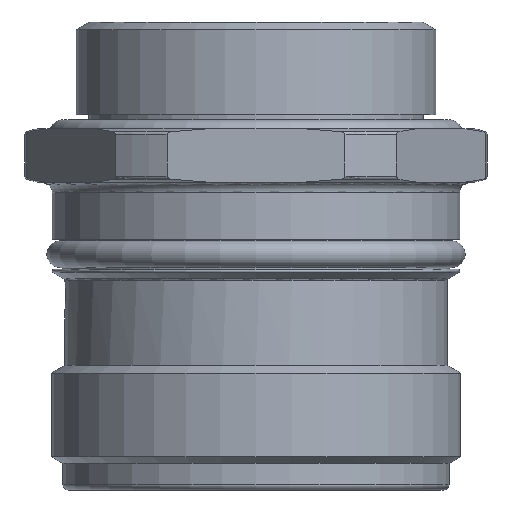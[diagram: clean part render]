
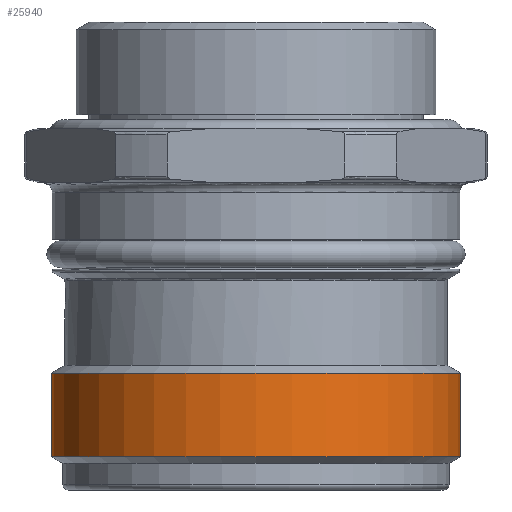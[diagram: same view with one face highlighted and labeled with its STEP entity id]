
A CAD part, left-side view. The second image highlights one B-rep face of the part: STEP entity #25940.
In plain terms, the highlighted cylindrical face has radius 11.5 mm (diameter 23 mm), a partial arc.
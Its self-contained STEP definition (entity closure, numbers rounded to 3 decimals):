
#1104=DIRECTION('',(0.,0.,-1.));
#1105=VECTOR('',#1104,4.692);
#1106=CARTESIAN_POINT('',(0.,-11.5,-19.733));
#1107=LINE('',#1106,#1105);
#1108=DIRECTION('',(0.,0.,-1.));
#1109=VECTOR('',#1108,4.692);
#1110=CARTESIAN_POINT('',(0.,11.5,-19.733));
#1111=LINE('',#1110,#1109);
#1112=CARTESIAN_POINT('',(0.,0.,-19.733));
#1113=DIRECTION('',(0.,0.,-1.));
#1114=DIRECTION('',(0.,-1.,0.));
#1115=AXIS2_PLACEMENT_3D('',#1112,#1113,#1114);
#1135=CARTESIAN_POINT('',(0.,0.,-24.425));
#1136=DIRECTION('',(0.,0.,-1.));
#1137=DIRECTION('',(0.,-1.,0.));
#1138=AXIS2_PLACEMENT_3D('',#1135,#1136,#1137);
#19780=CARTESIAN_POINT('',(0.,-11.5,-19.733));
#19781=VERTEX_POINT('',#19780);
#19782=CARTESIAN_POINT('',(0.,-11.5,-24.425));
#19783=VERTEX_POINT('',#19782);
#19797=CARTESIAN_POINT('',(0.,11.5,-19.733));
#19799=VERTEX_POINT('',#19797);
#19800=CARTESIAN_POINT('',(0.,11.5,-24.425));
#19801=VERTEX_POINT('',#19800);
#25926=CARTESIAN_POINT('',(0.,0.,-27.615));
#25927=DIRECTION('',(0.,0.,1.));
#25928=DIRECTION('',(0.,1.,0.));
#25929=AXIS2_PLACEMENT_3D('',#25926,#25927,#25928);
#25930=CYLINDRICAL_SURFACE('',#25929,11.5);
#25932=ORIENTED_EDGE('',*,*,#25931,.T.);
#25934=ORIENTED_EDGE('',*,*,#25933,.T.);
#25936=ORIENTED_EDGE('',*,*,#25935,.F.);
#25937=ORIENTED_EDGE('',*,*,#25919,.F.);
#25938=EDGE_LOOP('',(#25932,#25934,#25936,#25937));
#25939=FACE_OUTER_BOUND('',#25938,.F.);
#25940=ADVANCED_FACE('',(#25939),#25930,.T.);
#1116=CIRCLE('',#1115,11.5);
#1139=CIRCLE('',#1138,11.5);
#25919=EDGE_CURVE('',#19781,#19799,#1116,.T.);
#25931=EDGE_CURVE('',#19781,#19783,#1107,.T.);
#25933=EDGE_CURVE('',#19783,#19801,#1139,.T.);
#25935=EDGE_CURVE('',#19799,#19801,#1111,.T.);
